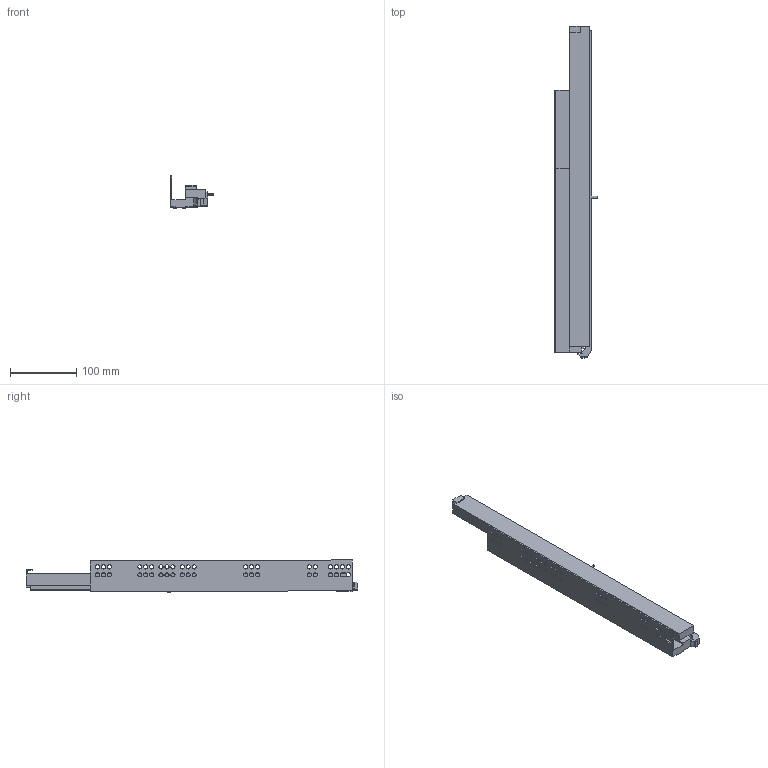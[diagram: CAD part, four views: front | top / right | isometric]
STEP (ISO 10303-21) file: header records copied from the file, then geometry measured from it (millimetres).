
FILE_DESCRIPTION (( 'STEP AP203' ), '1' );
FILE_NAME ('IMOS_Dynapro_Tipmatic_D51_NL_0_LI.STEP', '2013-03-22T12:04:09', ( 'Grass GmbH' ), ( 'Grass GmbH' ), 'SwSTEP 2.0', 'SolidWorks 2012', '' );
FILE_SCHEMA (( 'CONFIG_CONTROL_DESIGN' ));
Length unit declared in the file: millimetre
Products named in the file (1): IMOS_Dynapro_Tipmatic_D51_NL_0_LI
Bounding box: 65.92 x 501.55 x 48.48 mm (x, y, z)
Volume: 487797.7 mm3; surface area: 120413.5 mm2
Topology: 1 solids, 1 shells, 190 faces, 549 edges, 366 vertices
Faces by surface type: plane 99, cylinder 91
Entity records: 6536 total; most frequent: DIRECTION 1113, CARTESIAN_POINT 1106, ORIENTED_EDGE 1098, EDGE_CURVE 549, AXIS2_PLACEMENT_3D 373, LINE 367, VECTOR 367, VERTEX_POINT 366
